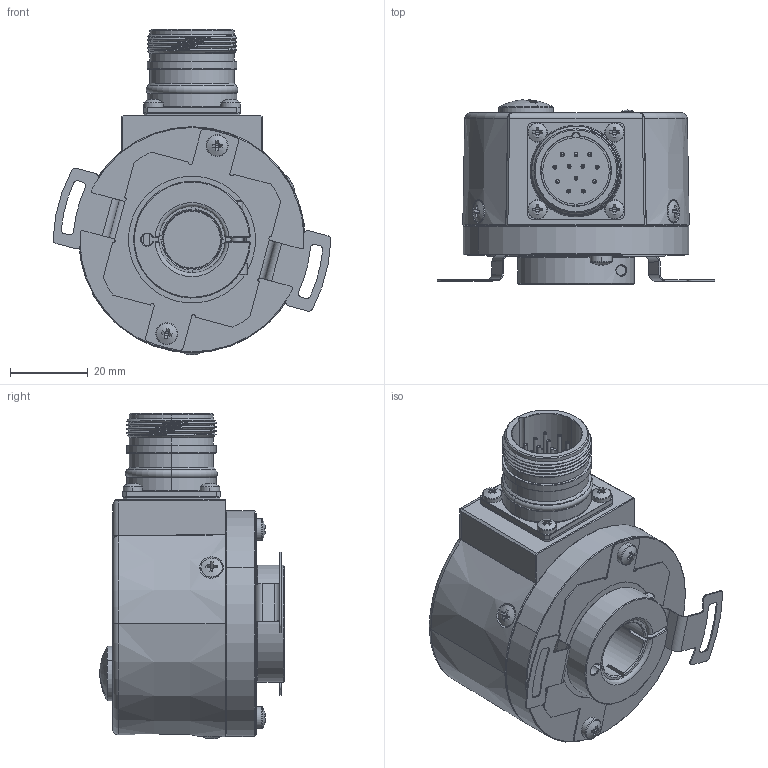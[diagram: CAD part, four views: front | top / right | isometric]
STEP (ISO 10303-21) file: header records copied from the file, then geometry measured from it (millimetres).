
FILE_DESCRIPTION (( 'STEP AP214' ), '1' );
FILE_NAME ('SASM8x2W.STEP', '2023-10-09T06:41:57', ( '' ), ( '' ), 'SwSTEP 2.0', 'SolidWorks 2019', '' );
FILE_SCHEMA (( 'AUTOMOTIVE_DESIGN' ));
Length unit declared in the file: millimetre
Products named in the file (1): SASM8x2W
Bounding box: 71.33 x 47.36 x 83.53 mm (x, y, z)
Volume: 64217.8 mm3; surface area: 36082.2 mm2
Topology: 1 solids, 25 shells, 1390 faces, 3427 edges, 2106 vertices
Faces by surface type: plane 679, cylinder 323, cone 217, torus 85, bspline 82, sphere 4
Entity records: 63506 total; most frequent: CARTESIAN_POINT 16556, ORIENTED_EDGE 6778, DIRECTION 6438, EDGE_CURVE 3389, AXIS2_PLACEMENT_3D 2570, VERTEX_POINT 2106, EDGE_LOOP 1499, UNCERTAINTY_MEASURE_WITH_UNIT 1393
